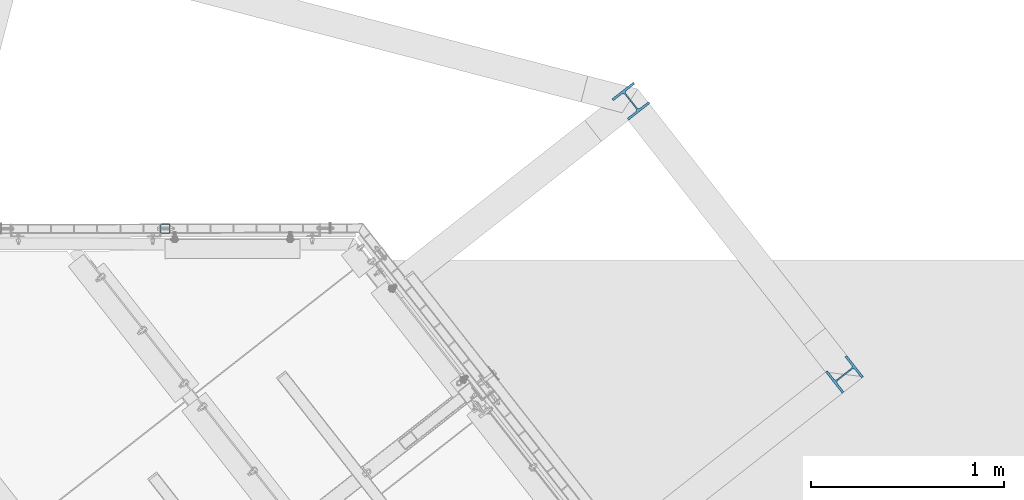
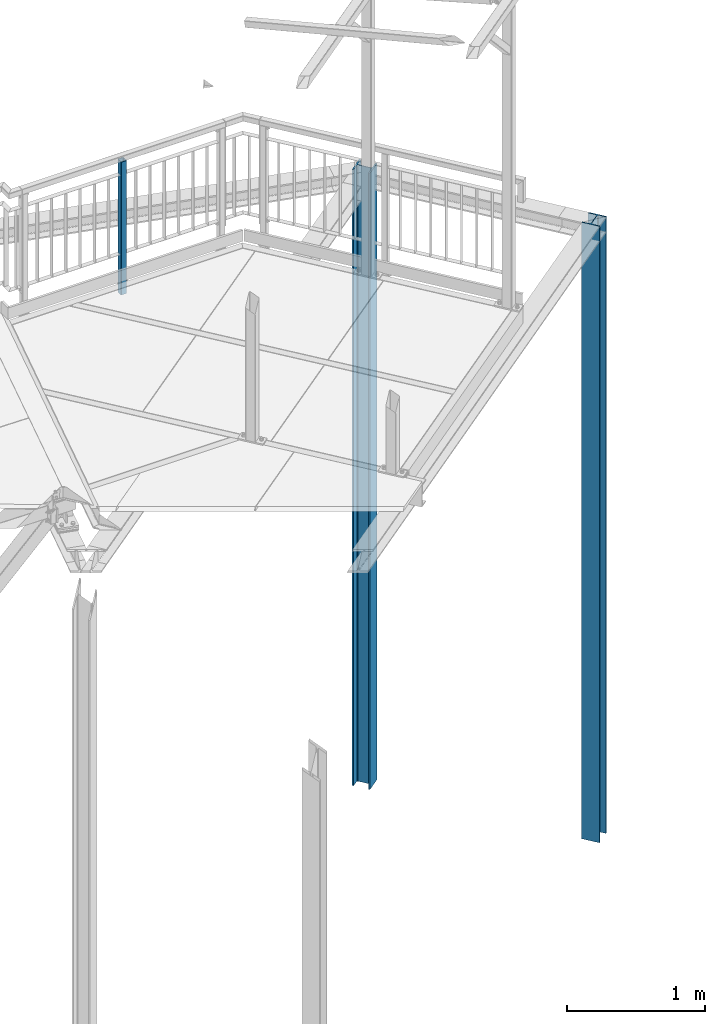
# One storey, part 4 of 169: 3 columns, 3 elements without a shape of their own.
"""IFC2X3 building model written with IfcOpenShell, lengths in millimetres."""

from ifc_helpers import new_model, si_unit, frame, origin_with_axes, origin_2d_with_axis, place, context, subcontext, project, spatial, hollow_rectangle, i_section, extrude, clip, halfspace, material, type_object, element, aggregate, save


model = new_model("IFC2X3")

# Units and contexts
model_context = context("Model", 3, precision=1e-05, world=origin_with_axes())
body_context = subcontext(model_context, "Body", "Model", "MODEL_VIEW")
ifc_project = project(units=[si_unit("LENGTHUNIT", "METRE", prefix="MILLI"), si_unit("AREAUNIT", "SQUARE_METRE"), si_unit("VOLUMEUNIT", "CUBIC_METRE"), si_unit("MASSUNIT", "GRAM", prefix="KILO"), si_unit("TIMEUNIT", "SECOND"), si_unit("PLANEANGLEUNIT", "RADIAN"), si_unit("SOLIDANGLEUNIT", "STERADIAN"), si_unit("THERMODYNAMICTEMPERATUREUNIT", "DEGREE_CELSIUS"), si_unit("LUMINOUSINTENSITYUNIT", "LUMEN")], contexts=[model_context])

# Site, building, storey
site_placement = place(None, origin_with_axes())
site = spatial("IfcSite", under=ifc_project, at=site_placement, Name="Undefined", CompositionType="ELEMENT")
building_placement = place(site_placement, origin_with_axes())
building = spatial("IfcBuilding", under=site, at=building_placement, Name="Undefined", CompositionType="ELEMENT")
storey_placement = place(building_placement, origin_with_axes())
storey = spatial("IfcBuildingStorey", under=building, at=storey_placement, Name="Undefined", CompositionType="ELEMENT", Elevation=0.0)

# Assembly, column
assembly_1_placement = place(storey_placement, origin_with_axes())
assembly_1 = element("IfcElementAssembly", 1, at=assembly_1_placement, inside=storey, Name="Steel Assembly", AssemblyPlace="NOTDEFINED", PredefinedType="RIGID_FRAME")
ifc_material_1 = material(Name="STEEL/S235")
column_type_1 = type_object("IfcColumnType", Name="SHS50*3", PredefinedType="NOTDEFINED")
column_1_placement = place(assembly_1_placement, frame((20169.6001563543, 2286.92409515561, 13665.0827740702), z_axis=(0.0, 0.0, 1.0), x_axis=(-0.00162384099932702, 0.999998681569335, -1.10000109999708e-08)))
column_1 = element("IfcColumn", 2, at=column_1_placement, type_object=column_type_1, material=ifc_material_1, Name="STANCHION", ObjectType="SHS50*3", context=body_context, shape_type="Clipping", body=[
    clip(extrude(hollow_rectangle(XDim=50.0, YDim=50.0, WallThickness=3.0, InnerFilletRadius=3.0, OuterFilletRadius=6.0, at=origin_2d_with_axis()), frame((4.6851509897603e-20, -1.8189894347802e-12, 1180.00000006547), z_axis=(-2.54700353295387e-10, 0.0, -1.0), x_axis=(0.0, 1.0, 0.0)), (0.0, 0.0, 1.0), 1180.0), halfspace(frame((1000.00000027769, -2.3126631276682e-07, 1180.00001126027), z_axis=(-2.54700353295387e-10, 0.0, -1.0), x_axis=(0.0, 1.0, 0.0)), True)),
])
aggregate(assembly_1, [column_1])

assembly_2_placement = place(storey_placement, origin_with_axes())
assembly_2 = element("IfcElementAssembly", 3, at=assembly_2_placement, inside=storey, Name="Steel Assembly", AssemblyPlace="NOTDEFINED", PredefinedType="RIGID_FRAME")
ifc_material_2 = material(Name="STEEL/S355")
column_type_2 = type_object("IfcColumnType", Name="HEB140", PredefinedType="NOTDEFINED")
column_2_placement = place(assembly_2_placement, frame((23694.5707906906, 1529.68390852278, 8070.41794411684), z_axis=(0.0, 0.0, 1.0), x_axis=(-0.7867732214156, -0.61724217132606, -1.0406294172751e-07)))
column_2 = element("IfcColumn", 4, at=column_2_placement, type_object=column_type_2, material=ifc_material_2, Name="COLUMN", ObjectType="HEB140", context=body_context, shape_type="SweptSolid", body=[
    extrude(i_section(OverallWidth=140.0, OverallDepth=140.0, WebThickness=7.0, FlangeThickness=12.0, FilletRadius=12.0, at=origin_2d_with_axis()), frame((3.63797882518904e-12, 0.0, 5469.58205588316), z_axis=(-2.54700353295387e-10, 0.0, -1.0), x_axis=(0.0, 1.0, 0.0)), (0.0, 0.0, 1.0), 5469.58),
])
aggregate(assembly_2, [column_2])

assembly_3_placement = place(storey_placement, origin_with_axes())
assembly_3 = element("IfcElementAssembly", 5, at=assembly_3_placement, inside=storey, Name="Steel Assembly", AssemblyPlace="NOTDEFINED", PredefinedType="RIGID_FRAME")
column_3_placement = place(assembly_3_placement, frame((22586.2885608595, 2948.03595762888, 8070.4176989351), z_axis=(0.0, 0.0, 1.0), x_axis=(-0.617242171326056, 0.786773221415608, 5.09999997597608e-08)))
column_3 = element("IfcColumn", 6, at=column_3_placement, type_object=column_type_2, material=ifc_material_2, Name="COLUMN", ObjectType="HEB140", context=body_context, shape_type="SweptSolid", body=[
    extrude(i_section(OverallWidth=140.0, OverallDepth=140.0, WebThickness=7.0, FlangeThickness=12.0, FilletRadius=12.0, at=origin_2d_with_axis()), frame((0.0, 0.0, 5469.5823010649), z_axis=(-2.54700353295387e-10, 0.0, -1.0), x_axis=(0.0, 1.0, 0.0)), (0.0, 0.0, 1.0), 5469.58),
])
aggregate(assembly_3, [column_3])

save(model, "model.ifc")
